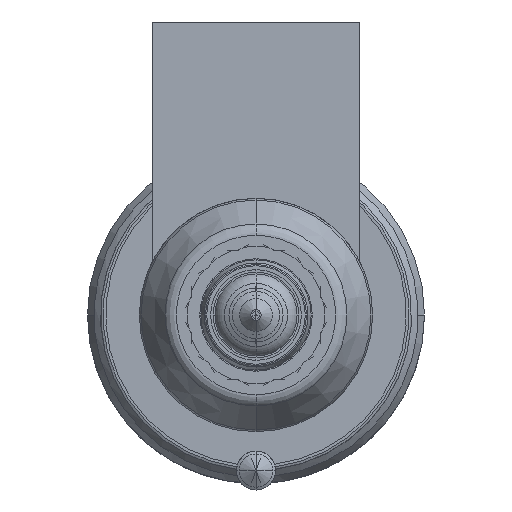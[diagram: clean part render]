
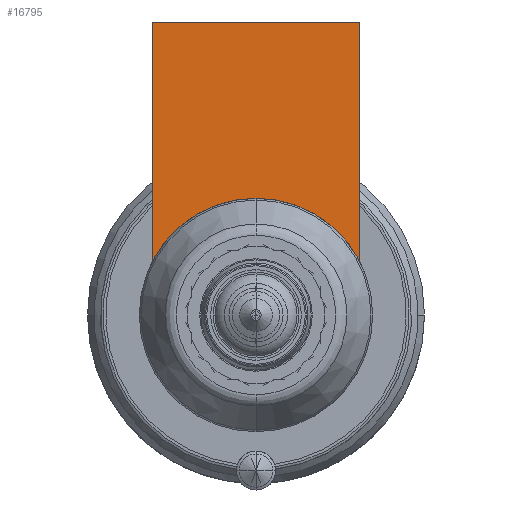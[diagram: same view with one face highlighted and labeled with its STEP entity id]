
A CAD part, front view. The second image highlights one B-rep face of the part: STEP entity #16795.
In plain terms, the highlighted planar face has unit normal (0, -1, 0).
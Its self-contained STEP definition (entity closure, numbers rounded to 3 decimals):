
#15383=DIRECTION('',(0.,0.,-1.));
#15384=VECTOR('',#15383,18.481);
#15385=CARTESIAN_POINT('',(-8.,-54.,22.604));
#15386=LINE('',#15385,#15384);
#15977=CARTESIAN_POINT('',(0.,-54.,0.));
#15978=DIRECTION('',(0.,-1.,0.));
#15979=DIRECTION('',(0.,0.,1.));
#15980=AXIS2_PLACEMENT_3D('',#15977,#15978,#15979);
#15985=DIRECTION('',(1.,0.,0.));
#15986=VECTOR('',#15985,16.);
#15987=CARTESIAN_POINT('',(-8.,-54.,22.604));
#15988=LINE('',#15987,#15986);
#15992=CARTESIAN_POINT('',(0.,-54.,0.));
#15993=DIRECTION('',(0.,-1.,0.));
#15994=DIRECTION('',(0.889,0.,0.458));
#15995=AXIS2_PLACEMENT_3D('',#15992,#15993,#15994);
#16076=DIRECTION('',(0.,0.,-1.));
#16077=VECTOR('',#16076,18.481);
#16078=CARTESIAN_POINT('',(8.,-54.,22.604));
#16079=LINE('',#16078,#16077);
#16181=CARTESIAN_POINT('',(-8.,-54.,22.604));
#16182=VERTEX_POINT('',#16181);
#16187=CARTESIAN_POINT('',(8.,-54.,22.604));
#16188=VERTEX_POINT('',#16187);
#16190=CARTESIAN_POINT('',(-8.,-54.,4.123));
#16192=VERTEX_POINT('',#16190);
#16194=CARTESIAN_POINT('',(8.,-54.,4.123));
#16196=VERTEX_POINT('',#16194);
#16197=CARTESIAN_POINT('',(0.,-54.,9.));
#16198=VERTEX_POINT('',#16197);
#16781=CARTESIAN_POINT('',(-8.,-54.,22.604));
#16782=DIRECTION('',(0.,-1.,0.));
#16783=DIRECTION('',(0.,0.,-1.));
#16784=AXIS2_PLACEMENT_3D('',#16781,#16782,#16783);
#16785=PLANE('',#16784);
#16786=ORIENTED_EDGE('',*,*,#16238,.T.);
#16787=ORIENTED_EDGE('',*,*,#16221,.F.);
#16789=ORIENTED_EDGE('',*,*,#16788,.T.);
#16791=ORIENTED_EDGE('',*,*,#16790,.T.);
#16792=ORIENTED_EDGE('',*,*,#16286,.T.);
#16793=EDGE_LOOP('',(#16786,#16787,#16789,#16791,#16792));
#16794=FACE_OUTER_BOUND('',#16793,.F.);
#16795=ADVANCED_FACE('',(#16794),#16785,.T.);
#15981=CIRCLE('',#15980,9.);
#15996=CIRCLE('',#15995,9.);
#16221=EDGE_CURVE('',#16182,#16192,#15386,.T.);
#16238=EDGE_CURVE('',#16198,#16192,#15981,.T.);
#16286=EDGE_CURVE('',#16196,#16198,#15996,.T.);
#16788=EDGE_CURVE('',#16182,#16188,#15988,.T.);
#16790=EDGE_CURVE('',#16188,#16196,#16079,.T.);
